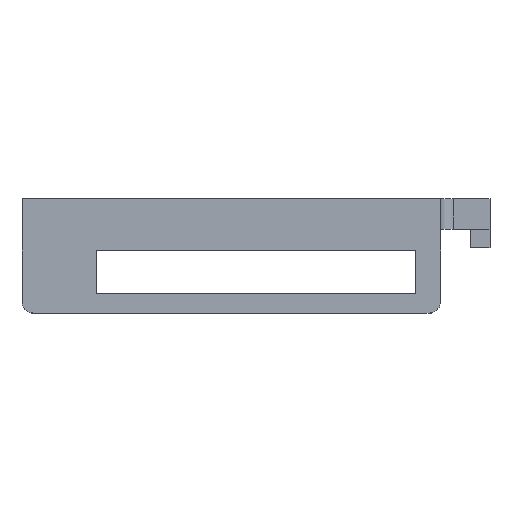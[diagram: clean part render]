
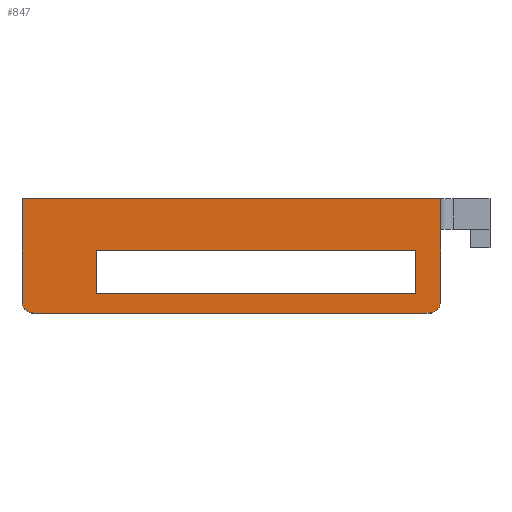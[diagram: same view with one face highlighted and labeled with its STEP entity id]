
A CAD part, top view. The second image highlights one B-rep face of the part: STEP entity #847.
In plain terms, the highlighted planar face has unit normal (0, 0, 1).
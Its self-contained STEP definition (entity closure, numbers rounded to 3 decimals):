
#352 = LINE ( 'NONE', #1386, #1412 ) ;
#407 = CARTESIAN_POINT ( 'NONE',  ( 48., -26.086, 25.75 ) ) ;
#409 = VERTEX_POINT ( 'NONE', #2187 ) ;
#449 = VECTOR ( 'NONE', #1878, 1000. ) ;
#581 = ORIENTED_EDGE ( 'NONE', *, *, #3319, .T. ) ;
#653 = VECTOR ( 'NONE', #2798, 1000. ) ;
#671 = EDGE_CURVE ( 'NONE', #409, #6159, #6723, .T. ) ;
#673 = CARTESIAN_POINT ( 'NONE',  ( 44.65, -9.996, 25.75 ) ) ;
#847 = ADVANCED_FACE ( 'NONE', ( #2573, #6439 ), #3656, .T. ) ;
#920 = CARTESIAN_POINT ( 'NONE',  ( -56.755, 3.35, 25.75 ) ) ;
#1086 = DIRECTION ( 'NONE',  ( 1., 0., 0. ) ) ;
#1094 = LINE ( 'NONE', #5427, #2616 ) ;
#1109 = VERTEX_POINT ( 'NONE', #6149 ) ;
#1177 = ORIENTED_EDGE ( 'NONE', *, *, #6067, .F. ) ;
#1184 = EDGE_LOOP ( 'NONE', ( #5448, #7003, #1177, #1986 ) ) ;
#1248 = EDGE_CURVE ( 'NONE', #1109, #2320, #4634, .T. ) ;
#1386 = CARTESIAN_POINT ( 'NONE',  ( -86.612, -26.086, 25.75 ) ) ;
#1412 = VECTOR ( 'NONE', #5259, 1000. ) ;
#1514 = EDGE_CURVE ( 'NONE', #6774, #1109, #5646, .T. ) ;
#1695 = LINE ( 'NONE', #673, #653 ) ;
#1735 = CARTESIAN_POINT ( 'NONE',  ( 51., -23.086, 25.75 ) ) ;
#1864 = CARTESIAN_POINT ( 'NONE',  ( 51., -26.086, 25.75 ) ) ;
#1878 = DIRECTION ( 'NONE',  ( 0., -1., 0. ) ) ;
#1954 = CARTESIAN_POINT ( 'NONE',  ( -53.755, -23.086, 25.75 ) ) ;
#1956 = CARTESIAN_POINT ( 'NONE',  ( 48., -23.086, 25.75 ) ) ;
#1986 = ORIENTED_EDGE ( 'NONE', *, *, #3099, .F. ) ;
#2150 = DIRECTION ( 'NONE',  ( 1., 0., 0. ) ) ;
#2187 = CARTESIAN_POINT ( 'NONE',  ( 51., 3.35, 25.75 ) ) ;
#2320 = VERTEX_POINT ( 'NONE', #2882 ) ;
#2570 = LINE ( 'NONE', #6324, #6389 ) ;
#2573 = FACE_BOUND ( 'NONE', #1184, .T. ) ;
#2616 = VECTOR ( 'NONE', #5953, 1000. ) ;
#2632 = EDGE_CURVE ( 'NONE', #3983, #3234, #1094, .T. ) ;
#2798 = DIRECTION ( 'NONE',  ( 0., 1., 0. ) ) ;
#2799 = EDGE_LOOP ( 'NONE', ( #581, #5464, #3505, #5879, #3415, #3580 ) ) ;
#2882 = CARTESIAN_POINT ( 'NONE',  ( -53.755, -26.086, 25.75 ) ) ;
#2920 = EDGE_CURVE ( 'NONE', #3234, #6961, #2570, .T. ) ;
#3099 = EDGE_CURVE ( 'NONE', #6961, #4113, #3733, .T. ) ;
#3234 = VERTEX_POINT ( 'NONE', #5825 ) ;
#3317 = VECTOR ( 'NONE', #6209, 1000. ) ;
#3319 = EDGE_CURVE ( 'NONE', #2320, #3765, #352, .T. ) ;
#3326 = CARTESIAN_POINT ( 'NONE',  ( -37.705, -21.133, 25.75 ) ) ;
#3415 = ORIENTED_EDGE ( 'NONE', *, *, #1514, .T. ) ;
#3505 = ORIENTED_EDGE ( 'NONE', *, *, #671, .F. ) ;
#3574 = DIRECTION ( 'NONE',  ( 1., 0., 0. ) ) ;
#3580 = ORIENTED_EDGE ( 'NONE', *, *, #1248, .T. ) ;
#3656 = PLANE ( 'NONE',  #5204 ) ;
#3733 = LINE ( 'NONE', #5384, #4118 ) ;
#3765 = VERTEX_POINT ( 'NONE', #407 ) ;
#3983 = VERTEX_POINT ( 'NONE', #5662 ) ;
#4113 = VERTEX_POINT ( 'NONE', #4154 ) ;
#4118 = VECTOR ( 'NONE', #1086, 1000. ) ;
#4154 = CARTESIAN_POINT ( 'NONE',  ( 44.65, -21.133, 25.75 ) ) ;
#4321 = EDGE_CURVE ( 'NONE', #6774, #409, #5117, .T. ) ;
#4634 = CIRCLE ( 'NONE', #6221, 3. ) ;
#4765 = DIRECTION ( 'NONE',  ( 0., 0., 1. ) ) ;
#4835 = AXIS2_PLACEMENT_3D ( 'NONE', #1956, #4765, #6925 ) ;
#5117 = LINE ( 'NONE', #6086, #3317 ) ;
#5204 = AXIS2_PLACEMENT_3D ( 'NONE', #6327, #5768, #2150 ) ;
#5223 = DIRECTION ( 'NONE',  ( 0., 0., 1. ) ) ;
#5259 = DIRECTION ( 'NONE',  ( 1., 0., 0. ) ) ;
#5264 = VECTOR ( 'NONE', #5733, 1000. ) ;
#5384 = CARTESIAN_POINT ( 'NONE',  ( -37.705, -21.133, 25.75 ) ) ;
#5427 = CARTESIAN_POINT ( 'NONE',  ( -37.705, -9.996, 25.75 ) ) ;
#5448 = ORIENTED_EDGE ( 'NONE', *, *, #2920, .F. ) ;
#5464 = ORIENTED_EDGE ( 'NONE', *, *, #5712, .T. ) ;
#5646 = LINE ( 'NONE', #6708, #449 ) ;
#5662 = CARTESIAN_POINT ( 'NONE',  ( 44.65, -9.996, 25.75 ) ) ;
#5712 = EDGE_CURVE ( 'NONE', #3765, #6159, #6414, .T. ) ;
#5733 = DIRECTION ( 'NONE',  ( 0., -1., 0. ) ) ;
#5768 = DIRECTION ( 'NONE',  ( 0., 0., 1. ) ) ;
#5825 = CARTESIAN_POINT ( 'NONE',  ( -37.705, -9.996, 25.75 ) ) ;
#5879 = ORIENTED_EDGE ( 'NONE', *, *, #4321, .F. ) ;
#5953 = DIRECTION ( 'NONE',  ( -1., 0., 0. ) ) ;
#6067 = EDGE_CURVE ( 'NONE', #4113, #3983, #1695, .T. ) ;
#6086 = CARTESIAN_POINT ( 'NONE',  ( -86.612, 3.35, 25.75 ) ) ;
#6149 = CARTESIAN_POINT ( 'NONE',  ( -56.755, -23.086, 25.75 ) ) ;
#6159 = VERTEX_POINT ( 'NONE', #1735 ) ;
#6209 = DIRECTION ( 'NONE',  ( 1., 0., 0. ) ) ;
#6221 = AXIS2_PLACEMENT_3D ( 'NONE', #1954, #5223, #3574 ) ;
#6324 = CARTESIAN_POINT ( 'NONE',  ( -37.705, -9.996, 25.75 ) ) ;
#6327 = CARTESIAN_POINT ( 'NONE',  ( -86.612, -26.086, 25.75 ) ) ;
#6389 = VECTOR ( 'NONE', #6860, 1000. ) ;
#6414 = CIRCLE ( 'NONE', #4835, 3. ) ;
#6439 = FACE_OUTER_BOUND ( 'NONE', #2799, .T. ) ;
#6708 = CARTESIAN_POINT ( 'NONE',  ( -56.755, -26.086, 25.75 ) ) ;
#6723 = LINE ( 'NONE', #1864, #5264 ) ;
#6774 = VERTEX_POINT ( 'NONE', #920 ) ;
#6860 = DIRECTION ( 'NONE',  ( 0., -1., 0. ) ) ;
#6925 = DIRECTION ( 'NONE',  ( 1., 0., 0. ) ) ;
#6961 = VERTEX_POINT ( 'NONE', #3326 ) ;
#7003 = ORIENTED_EDGE ( 'NONE', *, *, #2632, .F. ) ;
